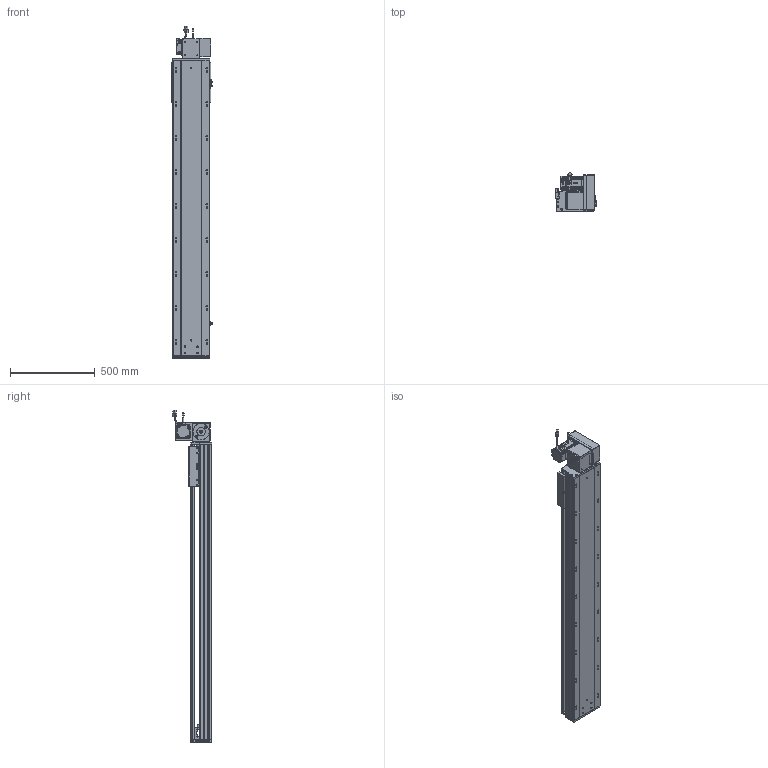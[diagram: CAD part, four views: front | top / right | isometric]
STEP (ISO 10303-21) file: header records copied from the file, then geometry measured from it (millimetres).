
FILE_DESCRIPTION (( 'STEP AP203' ), '1' );
FILE_NAME ('RY220-T-300-UR.SLDASM_1400.step', '2022-07-25T08:43:53', ( '' ), ( '' ), 'SwSTEP 2.0', 'SolidWorks 2016', '' );
FILE_SCHEMA (( 'CONFIG_CONTROL_DESIGN' ));
Length unit declared in the file: millimetre
Products named in the file (14): RY220-T菁釱-300_1400; RY220-俋离672覜茼んえ; 滅袉蝶18-15; RY220-同步轮副支撑座6304×2; RY220-T-湍謫欶(鍼踢); 覜茼ん672; RY220翋肮祭謫裔啣; RY220翋肮祭謫釱; RY220-T-300-UR.SLDASM_1400; 怢湛750W_ECMA-CX0807ES; 110A-T-肮祭謫釱傷裔; RY220圉猾敕々湍臏賑輸; RY220-T-300-奻裔啣_1400; RY220-T-蛌殏萇儂假蚾啣(750W)
Assembly tree (18 placements, depth 2):
  RY220-T-300-UR.SLDASM_1400
    RY220-T菁釱-300_1400
    RY220翋肮祭謫釱
    覜茼ん672  x3
    RY220圉猾敕々湍臏賑輸
    RY220-T-300-奻裔啣_1400
    RY220-俋离672覜茼んえ
    滅袉蝶18-15  x3
    RY220翋肮祭謫裔啣  x2
    110A-T-肮祭謫釱傷裔
    怢湛750W_ECMA-CX0807ES
    RY220-T-湍謫欶(鍼踢)
    RY220-T-蛌殏萇儂假蚾啣(750W)
    RY220-同步轮副支撑座6304×2
Bounding box: 238.7 x 231.74 x 1953.27 mm (x, y, z)
Volume: 14851083.6 mm3; surface area: 4423492.7 mm2
Topology: 19 solids, 19 shells, 2700 faces, 7451 edges, 4714 vertices
Faces by surface type: cylinder 1276, plane 1069, cone 273, bspline 56, sphere 16, torus 10
Entity records: 89811 total; most frequent: CARTESIAN_POINT 25549, ORIENTED_EDGE 13338, DIRECTION 12660, EDGE_CURVE 6669, AXIS2_PLACEMENT_3D 4494, VERTEX_POINT 4338, LINE 3672, VECTOR 3672
